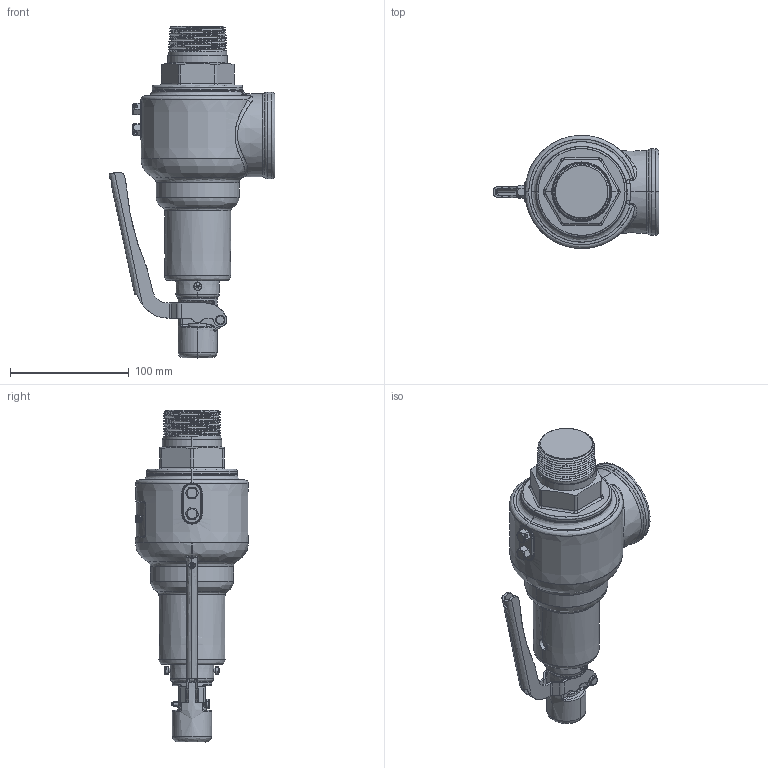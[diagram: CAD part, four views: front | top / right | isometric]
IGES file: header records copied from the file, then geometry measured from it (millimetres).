
Start section: SolidWorks IGES file using analytic representation for surfaces
Global section: file name: C:\Design\Design\Aquatrol\Customer 3D Files\Series 560 Customer Files\Series 560 1500 x 2000\Customer\Series 560 1500 x 2000.IGS; native system: SolidWorks 2015; preprocessor: SolidWorks 2015; author: Karl; date: 141202.103433; units: inch
Bounding box: 139.65 x 95.25 x 279.35 mm (x, y, z)
Surface area: 87542.7 mm2 (no closed solid volume)
Topology: 0 solids, 0 shells, 496 faces, 9673 edges, 9673 vertices
Faces by surface type: bspline 289, revolution 207
